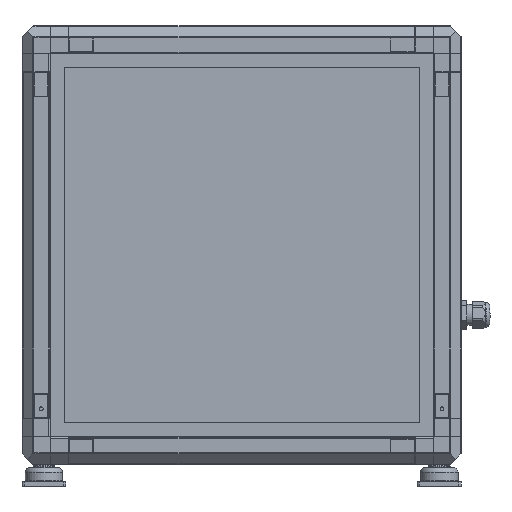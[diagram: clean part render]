
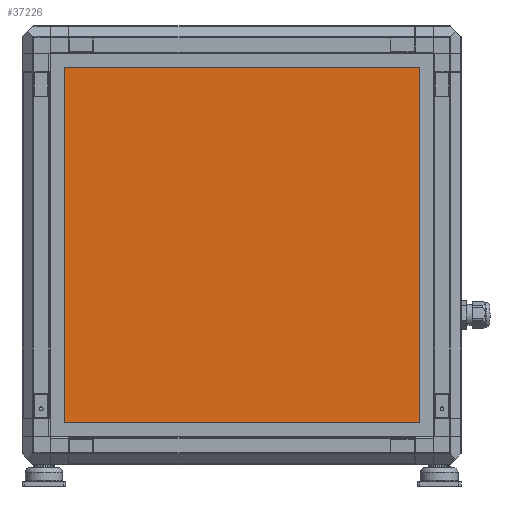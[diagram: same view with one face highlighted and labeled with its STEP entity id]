
A CAD part, left-side view. The second image highlights one B-rep face of the part: STEP entity #37226.
In plain terms, the highlighted planar face has unit normal (-1, 0, 0) as drawn and (0, 1, 0) by its records, which use the part's own axes.
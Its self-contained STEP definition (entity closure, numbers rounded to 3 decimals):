
#3888=PLANE('',#41550);
#5854=FACE_OUTER_BOUND('',#8124,.T.);
#8124=EDGE_LOOP('',(#35210,#35211,#35212,#35213));
#13184=LINE('',#69803,#16422);
#13187=LINE('',#69809,#16425);
#13190=LINE('',#69815,#16428);
#13193=LINE('',#69819,#16431);
#16422=VECTOR('',#51886,10.);
#16425=VECTOR('',#51891,10.);
#16428=VECTOR('',#51896,10.);
#16431=VECTOR('',#51901,10.);
#19792=VERTEX_POINT('',#69800);
#19793=VERTEX_POINT('',#69802);
#19795=VERTEX_POINT('',#69808);
#19797=VERTEX_POINT('',#69814);
#24928=EDGE_CURVE('',#19793,#19792,#13184,.T.);
#24931=EDGE_CURVE('',#19795,#19793,#13187,.T.);
#24934=EDGE_CURVE('',#19797,#19795,#13190,.T.);
#24937=EDGE_CURVE('',#19792,#19797,#13193,.T.);
#35210=ORIENTED_EDGE('',*,*,#24937,.T.);
#35211=ORIENTED_EDGE('',*,*,#24934,.T.);
#35212=ORIENTED_EDGE('',*,*,#24931,.T.);
#35213=ORIENTED_EDGE('',*,*,#24928,.T.);
#37226=ADVANCED_FACE('',(#5854),#3888,.T.);
#41550=AXIS2_PLACEMENT_3D('',#69820,#51902,#51903);
#51886=DIRECTION('',(1.,0.,0.));
#51891=DIRECTION('',(0.,0.,1.));
#51896=DIRECTION('',(-1.,0.,0.));
#51901=DIRECTION('',(0.,0.,-1.));
#51902=DIRECTION('center_axis',(0.,1.,0.));
#51903=DIRECTION('ref_axis',(0.,0.,1.));
#69800=CARTESIAN_POINT('',(145.,25.,195.));
#69802=CARTESIAN_POINT('',(-235.,25.,195.));
#69803=CARTESIAN_POINT('',(-235.,25.,195.));
#69808=CARTESIAN_POINT('',(-235.,25.,-185.));
#69809=CARTESIAN_POINT('',(-235.,25.,-185.));
#69814=CARTESIAN_POINT('',(145.,25.,-185.));
#69815=CARTESIAN_POINT('',(145.,25.,-185.));
#69819=CARTESIAN_POINT('',(145.,25.,195.));
#69820=CARTESIAN_POINT('Origin',(-45.,25.,5.));
